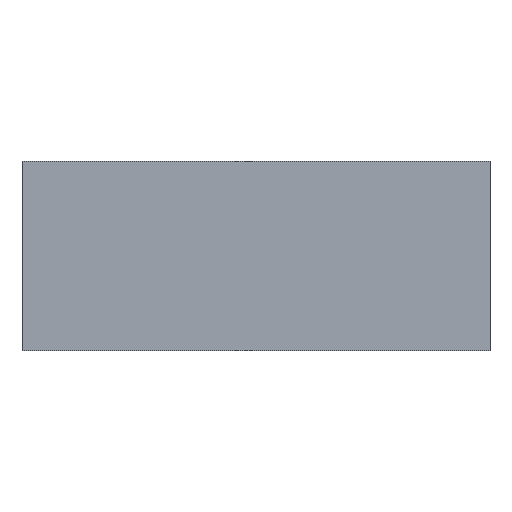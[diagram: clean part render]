
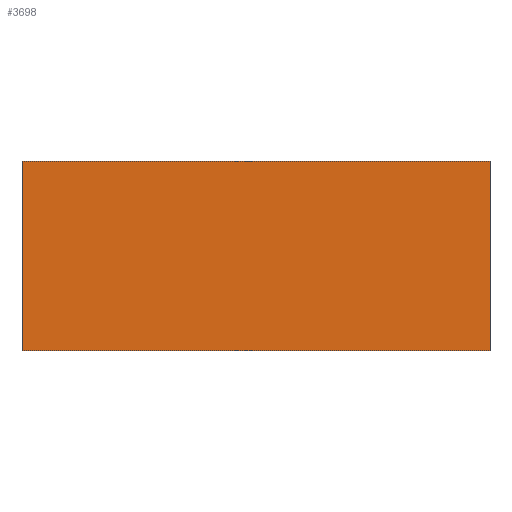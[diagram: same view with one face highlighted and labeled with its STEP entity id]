
A CAD part, top view. The second image highlights one B-rep face of the part: STEP entity #3698.
In plain terms, the highlighted planar face has unit normal (0, 0, 1).
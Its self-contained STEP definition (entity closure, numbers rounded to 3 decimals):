
#3698 = ADVANCED_FACE( '', ( #4473 ), #4474, .F. );
#4473 = FACE_OUTER_BOUND( '', #4805, .T. );
#4474 = PLANE( '', #4806 );
#4805 = EDGE_LOOP( '', ( #5279, #5280, #5281, #5282 ) );
#4806 = AXIS2_PLACEMENT_3D( '', #5283, #5284, #5285 );
#5279 = ORIENTED_EDGE( '', *, *, #6746, .T. );
#5280 = ORIENTED_EDGE( '', *, *, #6742, .F. );
#5281 = ORIENTED_EDGE( '', *, *, #6747, .F. );
#5282 = ORIENTED_EDGE( '', *, *, #6744, .T. );
#5283 = CARTESIAN_POINT( '', ( 234.95, -95.25, 53.975 ) );
#5284 = DIRECTION( '', ( 0., 0., -1. ) );
#5285 = DIRECTION( '', ( -1., 0., 0. ) );
#6742 = EDGE_CURVE( '', #7193, #7191, #7195, .T. );
#6744 = EDGE_CURVE( '', #7198, #7196, #7199, .T. );
#6746 = EDGE_CURVE( '', #7196, #7191, #7201, .T. );
#6747 = EDGE_CURVE( '', #7198, #7193, #7202, .T. );
#7191 = VERTEX_POINT( '', #7215 );
#7193 = VERTEX_POINT( '', #7218 );
#7195 = LINE( '', #7221, #7222 );
#7196 = VERTEX_POINT( '', #7223 );
#7198 = VERTEX_POINT( '', #7226 );
#7199 = LINE( '', #7227, #7228 );
#7201 = LINE( '', #7231, #7232 );
#7202 = LINE( '', #7233, #7234 );
#7215 = CARTESIAN_POINT( '', ( -234.95, 95.25, 53.975 ) );
#7218 = CARTESIAN_POINT( '', ( -234.95, -95.25, 53.975 ) );
#7221 = CARTESIAN_POINT( '', ( -234.95, -95.25, 53.975 ) );
#7222 = VECTOR( '', #7241, 1000. );
#7223 = CARTESIAN_POINT( '', ( 234.95, 95.25, 53.975 ) );
#7226 = CARTESIAN_POINT( '', ( 234.95, -95.25, 53.975 ) );
#7227 = CARTESIAN_POINT( '', ( 234.95, -95.25, 53.975 ) );
#7228 = VECTOR( '', #7243, 1000. );
#7231 = CARTESIAN_POINT( '', ( 234.95, 95.25, 53.975 ) );
#7232 = VECTOR( '', #7245, 1000. );
#7233 = CARTESIAN_POINT( '', ( 234.95, -95.25, 53.975 ) );
#7234 = VECTOR( '', #7246, 1000. );
#7241 = DIRECTION( '', ( 0., 1., 0. ) );
#7243 = DIRECTION( '', ( 0., 1., 0. ) );
#7245 = DIRECTION( '', ( -1., 0., 0. ) );
#7246 = DIRECTION( '', ( -1., 0., 0. ) );
